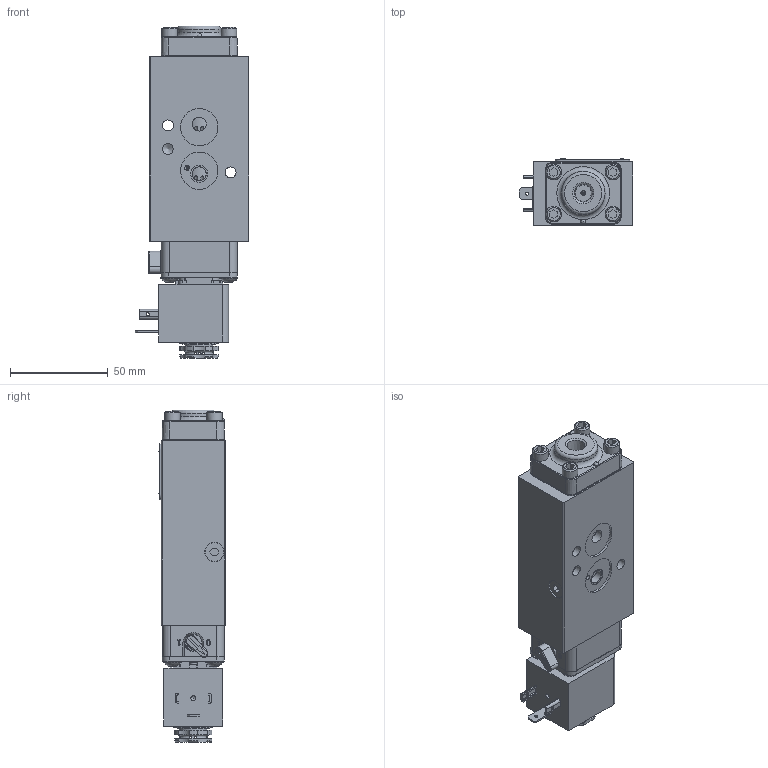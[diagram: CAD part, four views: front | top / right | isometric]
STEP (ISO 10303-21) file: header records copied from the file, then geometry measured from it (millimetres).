
FILE_DESCRIPTION(/* description */ (''),/* implementation_level */ '2;1');
FILE_NAME(/* name */ 'D:\Website Files\stp\Valves\Standard\ESR\NSR2HOC.stp',/* time_stamp */ '2017-04-04T09:33:41-04:00',/* author */ ('RMcKenna'),/* organization */ (''),/* preprocessor_version */ 'ST-DEVELOPER v15.6',/* originating_system */ 'Autodesk Inventor 2015',/* authorisation */ '');
FILE_SCHEMA (('AUTOMOTIVE_DESIGN { 1 0 10303 214 3 1 1 }'));
Products named in the file (1): Part29
Bounding box: 58.18 x 34.06 x 169.54 mm (x, y, z)
Volume: 197683.4 mm3; surface area: 65064.8 mm2
Topology: 1 solids, 26 shells, 1593 faces, 3920 edges, 2501 vertices
Faces by surface type: plane 690, cylinder 419, cone 265, torus 121, bspline 91, sphere 7
Full cylindrical faces by diameter (mm): 1.016 x1, 1.168 x10, 1.3 x1, 1.397 x1, 1.5 x1, 1.651 x2, 2.007 x2, 2.032 x8, 2.07 x2, 2.261 x2, 2.35 x4, 2.362 x2, 2.381 x2, 2.388 x2, 2.5 x2, 2.778 x2, 2.8 x1, 3 x4, 3.048 x1, 3.175 x2, 3.4 x1, 3.683 x9, 4.191 x2, 4.826 x8, 5.15 x4, 5.156 x8, 5.5 x1, 5.512 x1, 5.556 x2, 6.65 x1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
Entity records: 50531 total; most frequent: CARTESIAN_POINT 13283, DIRECTION 7364, ORIENTED_EDGE 7010, EDGE_CURVE 3503, AXIS2_PLACEMENT_3D 2854, VERTEX_POINT 2363, EDGE_LOOP 2070, LINE 1656
